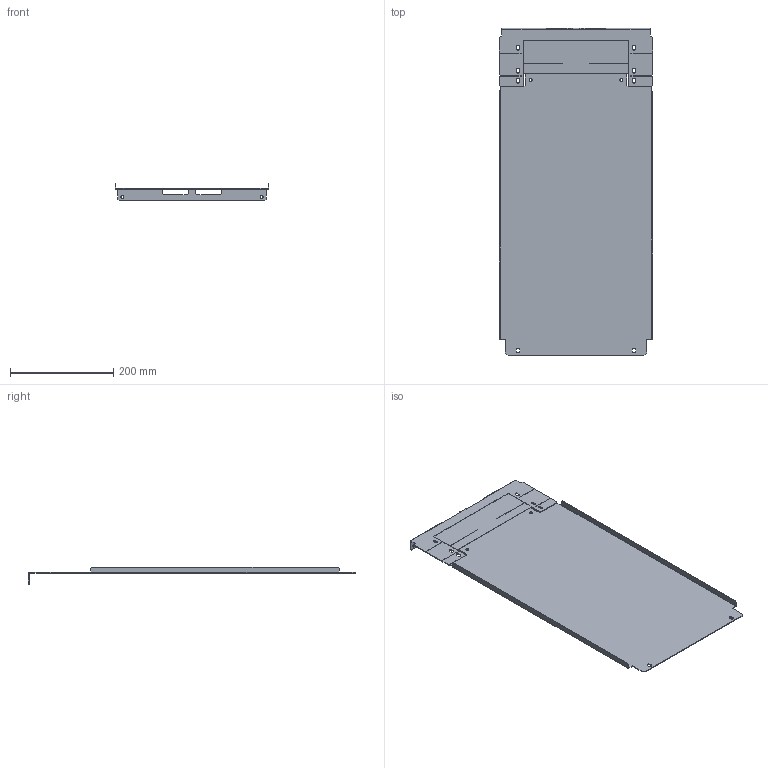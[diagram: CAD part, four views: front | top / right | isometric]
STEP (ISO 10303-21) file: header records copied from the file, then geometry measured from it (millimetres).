
FILE_DESCRIPTION(('CAx-IF Rec.Pracs.---Model Styling and Organization---1.2---2011-12-15','CAx-IF Rec.Pracs.---Geometric and Assembly Validation Properties---4.1---2014-06-16','CAx-IF Rec.Pracs.---PMI Polyline Presentation---2.0---2013-05-24'),'2;1');
FILE_NAME('R5SBT46304P.stp','2021-05-06T02:33:57+03:00',(''),(''),'STEP Interface 4.4 by CT CoreTechnologie','3D_Evolution4.4 by CT CoreTechnologie','');
FILE_SCHEMA(('AUTOMOTIVE_DESIGN { 1 0 10303 214 1 1 1 1 }'));
Length unit declared in the file: millimetre
Products named in the file (3): R5SBT46304P; RB.0525.00.00.0_-03; RB.1051.00.00.0_-03
Assembly tree (2 placements, depth 2):
  R5SBT46304P
    RB.0525.00.00.0_-03
    RB.1051.00.00.0_-03
Bounding box: 298 x 634.5 x 34 mm (x, y, z)
Surface area: 407987.8 mm2 (no closed solid volume)
Topology: 0 solids, 2 shells, 221 faces, 625 edges, 404 vertices
Faces by surface type: plane 187, cylinder 34
Entity records: 7229 total; most frequent: CARTESIAN_POINT 1253, ORIENTED_EDGE 1250, DIRECTION 1141, EDGE_CURVE 625, VECTOR 557, LINE 557, VERTEX_POINT 404, AXIS2_PLACEMENT_3D 292
